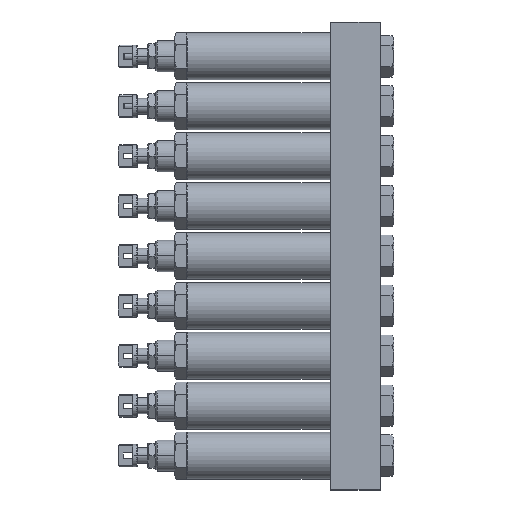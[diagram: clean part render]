
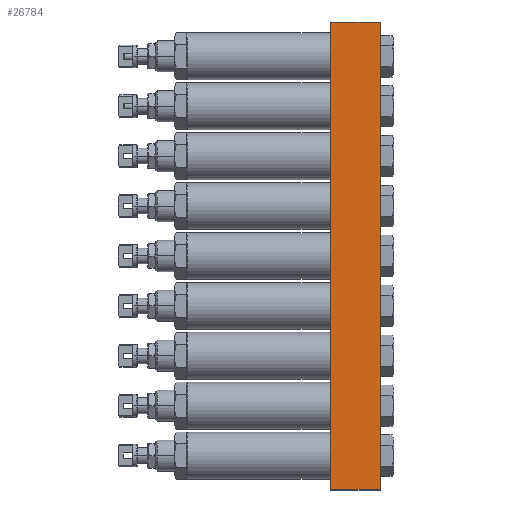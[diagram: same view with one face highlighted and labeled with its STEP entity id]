
A CAD part, left-side view. The second image highlights one B-rep face of the part: STEP entity #26784.
In plain terms, the highlighted planar face has unit normal (-1, 0, 0).
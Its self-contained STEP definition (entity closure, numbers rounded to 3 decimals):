
#201 = EDGE_LOOP ( 'NONE', ( #14330, #16431, #10160, #21984 ) ) ;
#489 = VERTEX_POINT ( 'NONE', #30521 ) ;
#750 = CARTESIAN_POINT ( 'NONE',  ( -39.141, -51.285, 22. ) ) ;
#1495 = LINE ( 'NONE', #32673, #14773 ) ;
#2294 = CARTESIAN_POINT ( 'NONE',  ( -39.141, -83.285, 22. ) ) ;
#2855 = VECTOR ( 'NONE', #5585, 1000. ) ;
#2873 = EDGE_CURVE ( 'NONE', #10533, #489, #31457, .T. ) ;
#2886 = EDGE_CURVE ( 'NONE', #489, #30106, #23651, .T. ) ;
#5585 = DIRECTION ( 'NONE',  ( 0., 0., 1. ) ) ;
#7117 = VERTEX_POINT ( 'NONE', #17397 ) ;
#7212 = AXIS2_PLACEMENT_3D ( 'NONE', #750, #16739, #19291 ) ;
#9907 = LINE ( 'NONE', #11108, #2855 ) ;
#10160 = ORIENTED_EDGE ( 'NONE', *, *, #29643, .F. ) ;
#10533 = VERTEX_POINT ( 'NONE', #21463 ) ;
#11108 = CARTESIAN_POINT ( 'NONE',  ( -39.141, -51.285, 22. ) ) ;
#11354 = DIRECTION ( 'NONE',  ( 0., -1., 0. ) ) ;
#12526 = EDGE_CURVE ( 'NONE', #7117, #30106, #1495, .T. ) ;
#14330 = ORIENTED_EDGE ( 'NONE', *, *, #2886, .T. ) ;
#14773 = VECTOR ( 'NONE', #11354, 1000. ) ;
#15500 = CARTESIAN_POINT ( 'NONE',  ( -39.141, -51.285, -278. ) ) ;
#16431 = ORIENTED_EDGE ( 'NONE', *, *, #12526, .F. ) ;
#16739 = DIRECTION ( 'NONE',  ( 1., 0., 0. ) ) ;
#17397 = CARTESIAN_POINT ( 'NONE',  ( -39.141, -51.285, 22. ) ) ;
#17436 = VECTOR ( 'NONE', #28274, 1000. ) ;
#18948 = CARTESIAN_POINT ( 'NONE',  ( -39.141, -83.285, 22. ) ) ;
#19291 = DIRECTION ( 'NONE',  ( 0., 0., -1. ) ) ;
#21024 = DIRECTION ( 'NONE',  ( 0., 0., 1. ) ) ;
#21463 = CARTESIAN_POINT ( 'NONE',  ( -39.141, -51.285, -278. ) ) ;
#21930 = PLANE ( 'NONE',  #7212 ) ;
#21984 = ORIENTED_EDGE ( 'NONE', *, *, #2873, .T. ) ;
#22811 = VECTOR ( 'NONE', #21024, 1000. ) ;
#22872 = FACE_OUTER_BOUND ( 'NONE', #201, .T. ) ;
#23651 = LINE ( 'NONE', #2294, #22811 ) ;
#26784 = ADVANCED_FACE ( 'NONE', ( #22872 ), #21930, .F. ) ;
#28274 = DIRECTION ( 'NONE',  ( 0., -1., 0. ) ) ;
#29643 = EDGE_CURVE ( 'NONE', #10533, #7117, #9907, .T. ) ;
#30106 = VERTEX_POINT ( 'NONE', #18948 ) ;
#30521 = CARTESIAN_POINT ( 'NONE',  ( -39.141, -83.285, -278. ) ) ;
#31457 = LINE ( 'NONE', #15500, #17436 ) ;
#32673 = CARTESIAN_POINT ( 'NONE',  ( -39.141, -51.285, 22. ) ) ;
